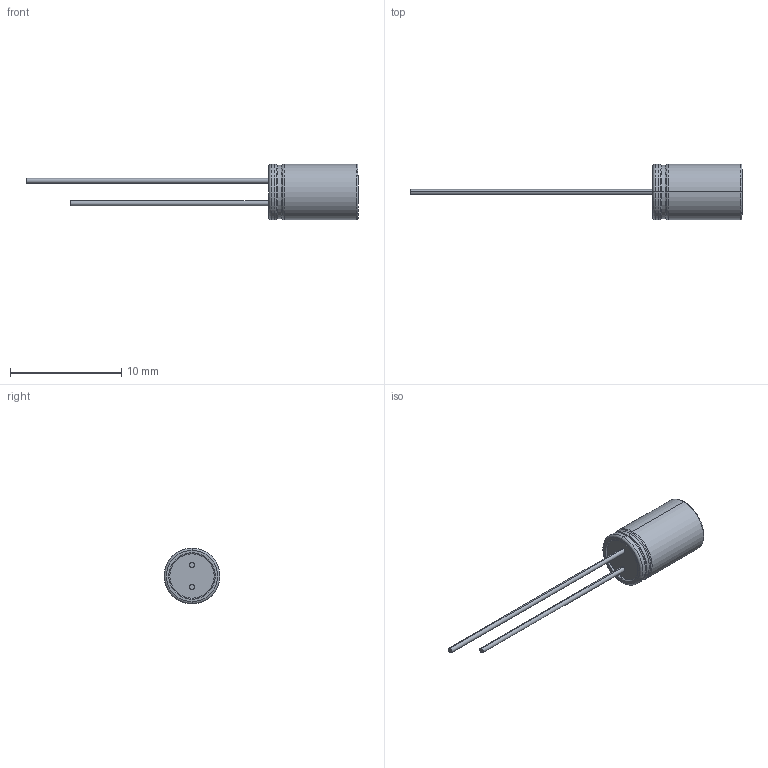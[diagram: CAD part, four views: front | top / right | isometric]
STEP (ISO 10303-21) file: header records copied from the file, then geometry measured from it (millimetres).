
FILE_DESCRIPTION((''),'2;1');
FILE_NAME('POLYMER-RADIAL5X8','2020-06-03T',('xy'),(''),'PRO/ENGINEER BY PARAMETRIC TECHNOLOGY CORPORATION, 2009380','PRO/ENGINEER BY PARAMETRIC TECHNOLOGY CORPORATION, 2009380','');
FILE_SCHEMA(('CONFIG_CONTROL_DESIGN'));
Length unit declared in the file: millimetre
Products named in the file (1): POLYMER-RADIAL5X8
Bounding box: 29.8 x 5 x 5 mm (x, y, z)
Volume: 160 mm3; surface area: 222.1 mm2
Topology: 1 solids, 1 shells, 415 faces, 1147 edges, 758 vertices
Faces by surface type: plane 388, cylinder 13, torus 10, cone 4
Entity records: 13006 total; most frequent: CARTESIAN_POINT 2320, ORIENTED_EDGE 2294, DIRECTION 2024, EDGE_CURVE 1147, VECTOR 1100, LINE 1100, VERTEX_POINT 758, AXIS2_PLACEMENT_3D 462
